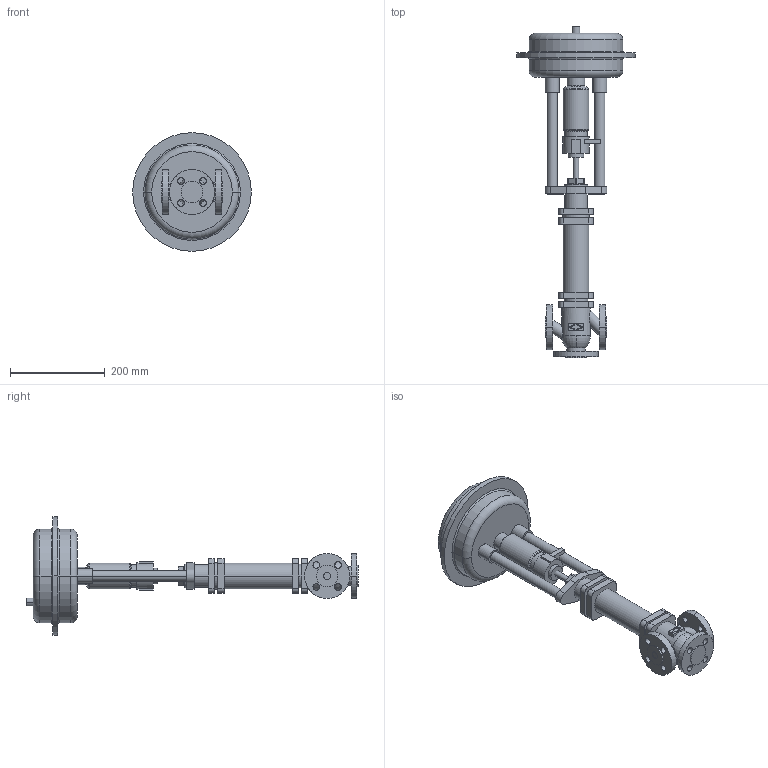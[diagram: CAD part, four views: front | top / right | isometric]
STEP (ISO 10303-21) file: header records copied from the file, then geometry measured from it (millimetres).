
FILE_DESCRIPTION(('OneSpaceDesigner STEP Export'),'2;1');
FILE_NAME('c000000427.stp','2006-09-20T 9:58:00',(''),(''),'OneSpace Designer STEP processor for AP214 (Solid Model)','OneSpace Designer 13.20A 18-Aug-2005 (C) CoCreate Software GmbH','');
FILE_SCHEMA(('AUTOMOTIVE_DESIGN { 1 0 10303 214 1 1 1 1 }'));
Length unit declared in the file: millimetre
Products named in the file (2): 1; 2
Bounding box: 250 x 700 x 250 mm (x, y, z)
Volume: 4889905.8 mm3; surface area: 379928.1 mm2
Topology: 2 solids, 2 shells, 242 faces, 591 edges, 388 vertices
Faces by surface type: cylinder 118, plane 102, torus 18, cone 4
Entity records: 6601 total; most frequent: CARTESIAN_POINT 1224, ORIENTED_EDGE 1182, DIRECTION 1012, EDGE_CURVE 591, VERTEX_POINT 388, AXIS2_PLACEMENT_3D 361, EDGE_LOOP 301, VECTOR 290
